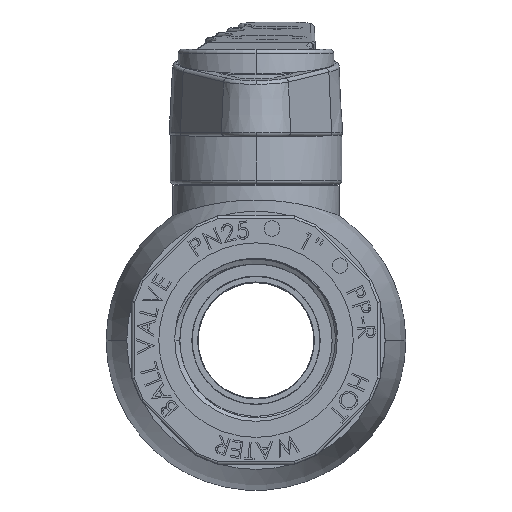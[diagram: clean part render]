
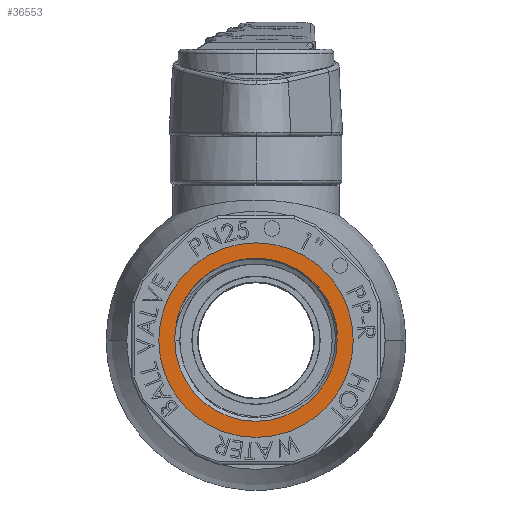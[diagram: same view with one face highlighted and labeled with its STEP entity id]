
A CAD part, top view. The second image highlights one B-rep face of the part: STEP entity #36553.
In plain terms, the highlighted planar face has unit normal (0, 0, 1).
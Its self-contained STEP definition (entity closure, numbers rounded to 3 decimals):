
#930 = DIRECTION ( 'NONE',  ( -1., 0., 0. ) ) ;
#1273 = VERTEX_POINT ( 'NONE', #37660 ) ;
#2048 = DIRECTION ( 'NONE',  ( 0., 0., -1. ) ) ;
#2512 = EDGE_LOOP ( 'NONE', ( #4085, #2547, #23808, #24227, #16123, #16971 ) ) ;
#2547 = ORIENTED_EDGE ( 'NONE', *, *, #3847, .T. ) ;
#2737 = VERTEX_POINT ( 'NONE', #24293 ) ;
#3360 = CARTESIAN_POINT ( 'NONE',  ( -2.769, 16.052, 0. ) ) ;
#3808 = DIRECTION ( 'NONE',  ( 0., 0., 1. ) ) ;
#3847 = EDGE_CURVE ( 'NONE', #32255, #31118, #8597, .T. ) ;
#4085 = ORIENTED_EDGE ( 'NONE', *, *, #28598, .F. ) ;
#4130 = CARTESIAN_POINT ( 'NONE',  ( 19.475, 0., 0. ) ) ;
#4647 = DIRECTION ( 'NONE',  ( 0., 0., -1. ) ) ;
#4657 = CARTESIAN_POINT ( 'NONE',  ( -11.848, 11.346, 0. ) ) ;
#5603 = VERTEX_POINT ( 'NONE', #16272 ) ;
#6873 = CARTESIAN_POINT ( 'NONE',  ( -15.32, 5.813, 0. ) ) ;
#7274 = DIRECTION ( 'NONE',  ( -1., 0., 0. ) ) ;
#8597 = CIRCLE ( 'NONE', #37351, 16.25 ) ;
#8681 = CARTESIAN_POINT ( 'NONE',  ( -13.231, 9.697, 0. ) ) ;
#8789 = AXIS2_PLACEMENT_3D ( 'NONE', #20479, #14713, #26789 ) ;
#9307 = CARTESIAN_POINT ( 'NONE',  ( -4.795, 15.644, 0. ) ) ;
#9345 = AXIS2_PLACEMENT_3D ( 'NONE', #30067, #3808, #15504 ) ;
#9683 = CARTESIAN_POINT ( 'NONE',  ( -5.459, 15.45, 0. ) ) ;
#9852 = EDGE_CURVE ( 'NONE', #27495, #1273, #23264, .T. ) ;
#10789 = CARTESIAN_POINT ( 'NONE',  ( -8.058, 14.289, 0. ) ) ;
#11269 = AXIS2_PLACEMENT_3D ( 'NONE', #27841, #4647, #28215 ) ;
#11803 = CIRCLE ( 'NONE', #8789, 19.475 ) ;
#12273 = ORIENTED_EDGE ( 'NONE', *, *, #23741, .T. ) ;
#13177 = CARTESIAN_POINT ( 'NONE',  ( -15.078, 6.441, 0. ) ) ;
#13380 = CARTESIAN_POINT ( 'NONE',  ( 0., 0., 0. ) ) ;
#13541 = PLANE ( 'NONE',  #26716 ) ;
#13717 = CARTESIAN_POINT ( 'NONE',  ( -16.25, 0., 0. ) ) ;
#13747 = DIRECTION ( 'NONE',  ( -1., 0., 0. ) ) ;
#14166 = CARTESIAN_POINT ( 'NONE',  ( 16.25, 0., 0. ) ) ;
#14713 = DIRECTION ( 'NONE',  ( 0., 0., 1. ) ) ;
#15416 = EDGE_LOOP ( 'NONE', ( #36944, #12273 ) ) ;
#15472 = B_SPLINE_CURVE_WITH_KNOTS ( 'NONE', 3,
 ( #23851, #3360, #35563, #9307, #9683, #21000 ),
 .UNSPECIFIED., .F., .F.,
 ( 4, 2, 4 ),
 ( 0.027, 0.029, 0.031 ),
 .UNSPECIFIED. ) ;
#15504 = DIRECTION ( 'NONE',  ( 1., 0., 0. ) ) ;
#15666 = EDGE_CURVE ( 'NONE', #31706, #2737, #31354, .T. ) ;
#16123 = ORIENTED_EDGE ( 'NONE', *, *, #31364, .F. ) ;
#16272 = CARTESIAN_POINT ( 'NONE',  ( -16.049, 2.546, 0. ) ) ;
#16346 = CARTESIAN_POINT ( 'NONE',  ( -12.212, 10.953, 0. ) ) ;
#16971 = ORIENTED_EDGE ( 'NONE', *, *, #9852, .F. ) ;
#18194 = VERTEX_POINT ( 'NONE', #13717 ) ;
#18596 = AXIS2_PLACEMENT_3D ( 'NONE', #13380, #25061, #7274 ) ;
#18861 = CARTESIAN_POINT ( 'NONE',  ( -8.526, 14.015, 0. ) ) ;
#19204 = CIRCLE ( 'NONE', #18596, 16.25 ) ;
#19611 = CARTESIAN_POINT ( 'NONE',  ( -10.704, 12.465, 0. ) ) ;
#20369 = CARTESIAN_POINT ( 'NONE',  ( -14.653, 7.434, 0. ) ) ;
#20479 = CARTESIAN_POINT ( 'NONE',  ( 0., 0., 0. ) ) ;
#21000 = CARTESIAN_POINT ( 'NONE',  ( -6.11, 15.214, 0. ) ) ;
#22151 = B_SPLINE_CURVE_WITH_KNOTS ( 'NONE', 3,
 ( #13177, #6873, #36755, #24671, #27930, #33677 ),
 .UNSPECIFIED., .F., .F.,
 ( 4, 2, 4 ),
 ( 0., 0.002, 0.004 ),
 .UNSPECIFIED. ) ;
#22363 = FACE_BOUND ( 'NONE', #2512, .T. ) ;
#22473 = CARTESIAN_POINT ( 'NONE',  ( -9.874, 13.133, 0. ) ) ;
#23264 = B_SPLINE_CURVE_WITH_KNOTS ( 'NONE', 3,
 ( #36676, #37063, #33784, #10789, #18861, #22473, #19611, #4657, #16346, #34751, #8681, #31493, #20369, #34566 ),
 .UNSPECIFIED., .F., .F.,
 ( 4, 2, 2, 2, 2, 2, 4 ),
 ( 0., 0.002, 0.003, 0.006, 0.008, 0.01, 0.013 ),
 .UNSPECIFIED. ) ;
#23741 = EDGE_CURVE ( 'NONE', #2737, #31706, #11803, .T. ) ;
#23808 = ORIENTED_EDGE ( 'NONE', *, *, #25246, .T. ) ;
#23851 = CARTESIAN_POINT ( 'NONE',  ( -2.089, 16.115, 0. ) ) ;
#24227 = ORIENTED_EDGE ( 'NONE', *, *, #35024, .T. ) ;
#24293 = CARTESIAN_POINT ( 'NONE',  ( -19.475, 0., 0. ) ) ;
#24671 = CARTESIAN_POINT ( 'NONE',  ( -15.846, 3.871, 0. ) ) ;
#25061 = DIRECTION ( 'NONE',  ( 0., 0., -1. ) ) ;
#25246 = EDGE_CURVE ( 'NONE', #31118, #18194, #31459, .T. ) ;
#26716 = AXIS2_PLACEMENT_3D ( 'NONE', #28507, #2048, #13747 ) ;
#26789 = DIRECTION ( 'NONE',  ( 1., 0., 0. ) ) ;
#26984 = DIRECTION ( 'NONE',  ( 0., 0., -1. ) ) ;
#27184 = CARTESIAN_POINT ( 'NONE',  ( 0., 0., 0. ) ) ;
#27495 = VERTEX_POINT ( 'NONE', #32425 ) ;
#27841 = CARTESIAN_POINT ( 'NONE',  ( 0., 0., 0. ) ) ;
#27930 = CARTESIAN_POINT ( 'NONE',  ( -15.969, 3.208, 0. ) ) ;
#28215 = DIRECTION ( 'NONE',  ( -1., 0., 0. ) ) ;
#28507 = CARTESIAN_POINT ( 'NONE',  ( 0., 19.475, 0. ) ) ;
#28598 = EDGE_CURVE ( 'NONE', #32255, #27495, #15472, .T. ) ;
#30067 = CARTESIAN_POINT ( 'NONE',  ( 0., 0., 0. ) ) ;
#31118 = VERTEX_POINT ( 'NONE', #14166 ) ;
#31354 = CIRCLE ( 'NONE', #9345, 19.475 ) ;
#31364 = EDGE_CURVE ( 'NONE', #1273, #5603, #22151, .T. ) ;
#31459 = CIRCLE ( 'NONE', #11269, 16.25 ) ;
#31493 = CARTESIAN_POINT ( 'NONE',  ( -14.138, 8.372, 0. ) ) ;
#31706 = VERTEX_POINT ( 'NONE', #4130 ) ;
#32255 = VERTEX_POINT ( 'NONE', #33590 ) ;
#32425 = CARTESIAN_POINT ( 'NONE',  ( -6.11, 15.214, 0. ) ) ;
#33590 = CARTESIAN_POINT ( 'NONE',  ( -2.089, 16.115, 0. ) ) ;
#33677 = CARTESIAN_POINT ( 'NONE',  ( -16.049, 2.546, 0. ) ) ;
#33784 = CARTESIAN_POINT ( 'NONE',  ( -7.102, 14.787, 0. ) ) ;
#34566 = CARTESIAN_POINT ( 'NONE',  ( -15.078, 6.441, 0. ) ) ;
#34751 = CARTESIAN_POINT ( 'NONE',  ( -12.906, 10.127, 0. ) ) ;
#35024 = EDGE_CURVE ( 'NONE', #18194, #5603, #19204, .T. ) ;
#35563 = CARTESIAN_POINT ( 'NONE',  ( -3.446, 15.946, 0. ) ) ;
#36553 = ADVANCED_FACE ( 'NONE', ( #37321, #22363 ), #13541, .F. ) ;
#36676 = CARTESIAN_POINT ( 'NONE',  ( -6.11, 15.214, 0. ) ) ;
#36755 = CARTESIAN_POINT ( 'NONE',  ( -15.522, 5.173, 0. ) ) ;
#36944 = ORIENTED_EDGE ( 'NONE', *, *, #15666, .T. ) ;
#37063 = CARTESIAN_POINT ( 'NONE',  ( -6.612, 15.013, 0. ) ) ;
#37321 = FACE_OUTER_BOUND ( 'NONE', #15416, .T. ) ;
#37351 = AXIS2_PLACEMENT_3D ( 'NONE', #27184, #26984, #930 ) ;
#37660 = CARTESIAN_POINT ( 'NONE',  ( -15.078, 6.441, 0. ) ) ;
